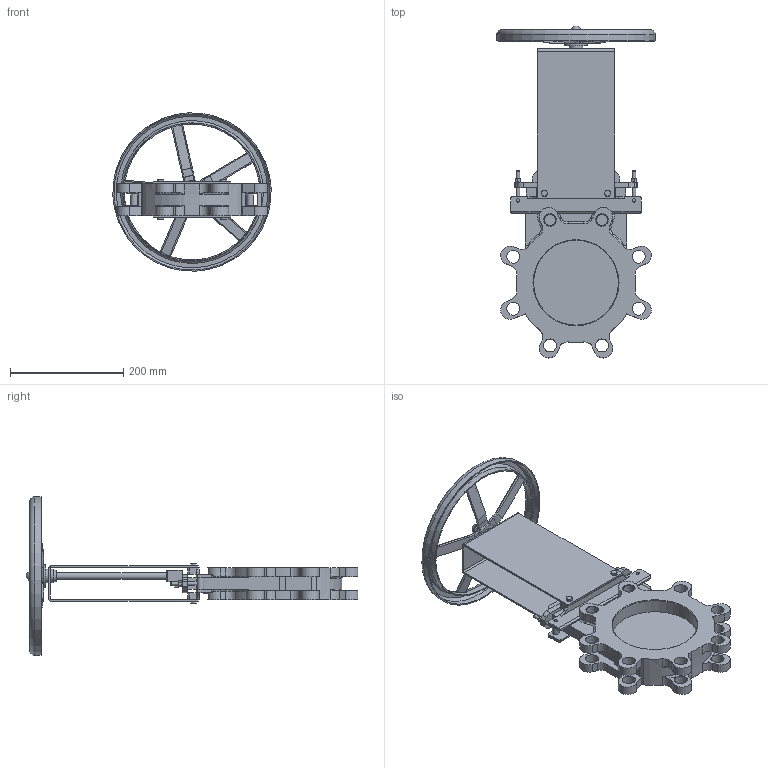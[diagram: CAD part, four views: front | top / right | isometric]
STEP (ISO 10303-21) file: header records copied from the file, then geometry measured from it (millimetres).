
FILE_DESCRIPTION(('STEP AP214'), '1');
FILE_NAME('GVKN1331N-2W-Fb-S Çàäâèæêà øèáåðíàÿ DN.ru Äó150 Ðó10', '', ('UNSPECIFIED'), ('UNSPECIFIED'), 'C3D Converter', 'C3D Toolkit', '');
FILE_SCHEMA(('AUTOMOTIVE_DESIGN { 1 0 10303 214 3 1 1}'));
Length unit declared in the file: millimetre
Products named in the file (1): GVKN1331N-2W-Fb-S
Bounding box: 279.67 x 586.42 x 279.67 mm (x, y, z)
Volume: 2199278.8 mm3; surface area: 571239.2 mm2
Topology: 1 solids, 1 shells, 756 faces, 1971 edges, 1241 vertices
Faces by surface type: plane 364, cylinder 215, cone 72, bspline 58, torus 46, sphere 1
Full cylindrical faces by diameter (mm): 4 x2, 6 x8, 7 x4, 10 x4, 12 x3, 16 x1, 20 x6, 21 x1, 23 x12, 24 x2, 25 x1, 36 x1, 40 x1, 150 x2, 240.128 x1, 244.128 x1, 276 x1, 280 x1
Entity records: 42146 total; most frequent: CARTESIAN_POINT 19495, ORIENTED_EDGE 3796, DIRECTION 3524, EDGE_CURVE 1898, AXIS2_PLACEMENT_3D 1306, VERTEX_POINT 1240, LINE 912, VECTOR 912
